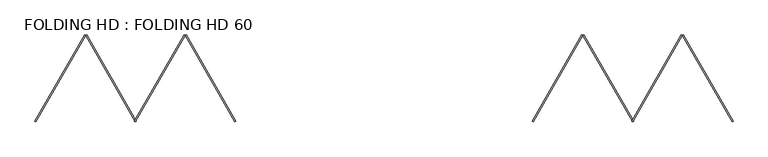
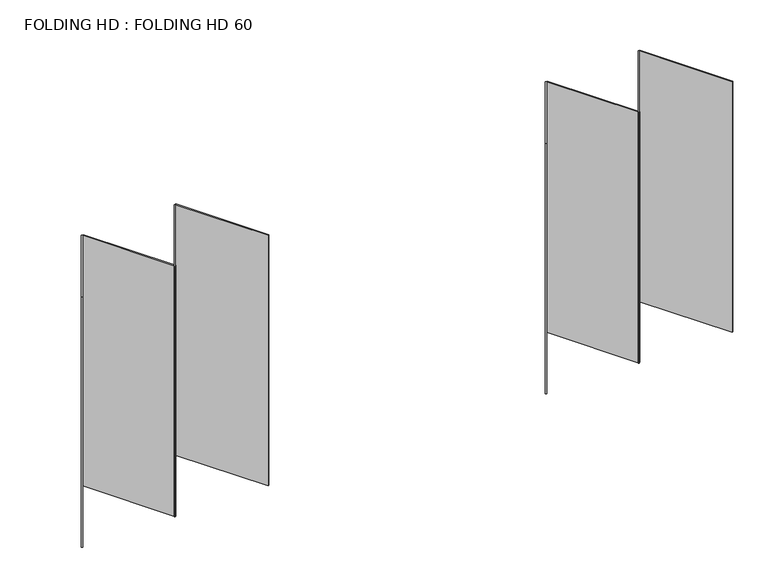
"""IFC4 building model written with IfcOpenShell, lengths in millimetres: plate geometry, FOLDING HD : FOLDING HD 60."""

from ifc_helpers import new_model, si_unit, origin, origin_with_axes, place, context, project, spatial, polyline, outline, extrude, source, transform, mapped, element, save


def folding_hd_folding_hd_60_17fa483a(model_context):
    return source(origin(), model_context, "Body", "SweptSolid", [
        extrude(outline(polyline([(2700.0, 779.4228635), (2250.0000001, 0.0), (2241.339746, 5.0), (2691.339746, 784.4228635), (2700.0, 779.4228635)])), origin_with_axes(), (0.0, 0.0, 1.0), 2570.0),
        extrude(outline(polyline([(2700.0, 779.4228634), (2708.660254, 784.4228634), (3158.660254, 5.0), (3150.0, 0.0), (2700.0, 779.4228634)])), origin_with_axes(), (0.0, 0.0, 1.0), 2570.0),
        extrude(outline(polyline([(1800.0, 779.4228634), (1808.660254, 784.4228634), (2258.660254, 5.0), (2250.0, 0.0), (1800.0, 779.4228634)])), origin_with_axes(), (0.0, 0.0, 1.0), 2570.0),
        extrude(outline(polyline([(1800.0, 779.4228634), (1350.0, 0.0), (1341.339746, 5.0), (1791.339746, 784.4228634), (1800.0, 779.4228634)])), origin_with_axes(), (0.0, 0.0, 1.0), 2570.0),
        extrude(outline(polyline([(-1800.0, 779.4228634), (-2250.0, 0.0), (-2258.660254, 5.0), (-1808.660254, 784.4228634), (-1800.0, 779.4228634)])), origin_with_axes(), (0.0, 0.0, 1.0), 2570.0),
        extrude(outline(polyline([(-1800.0, 779.4228634), (-1791.339746, 784.4228634), (-1341.339746, 5.0), (-1350.0, 0.0), (-1800.0, 779.4228634)])), origin_with_axes(), (0.0, 0.0, 1.0), 2570.0),
        extrude(outline(polyline([(-2700.0, 779.4228634), (-2691.339746, 784.4228634), (-2241.339746, 5.0), (-2250.0, 0.0), (-2700.0, 779.4228634)])), origin_with_axes(), (0.0, 0.0, 1.0), 2570.0),
        extrude(outline(polyline([(-2700.0, 779.4228634), (-3150.0, 0.0), (-3158.660254, 5.0), (-2708.660254, 784.4228634), (-2700.0, 779.4228634)])), origin_with_axes(), (0.0, 0.0, 1.0), 2570.0),
    ])


if __name__ == "__main__":
    model = new_model("IFC4")
    model_context = context("Model", 3, world=origin())
    ifc_project = project(units=[si_unit("LENGTHUNIT", "METRE", prefix="MILLI")], contexts=[model_context])
    site = spatial("IfcSite", under=ifc_project)
    building = spatial("IfcBuilding", under=site)
    placement = place(None, origin())
    folding_hd_folding_hd_60_shape = folding_hd_folding_hd_60_17fa483a(model_context)
    element("IfcPlate", 1, ObjectType="FOLDING HD : FOLDING HD 60", at=placement, inside=building, context=model_context, shape_type="MappedRepresentation", body=[
        mapped(folding_hd_folding_hd_60_shape, transform((0.0, 0.0, 0.0), x_axis=(1.0, 0.0, 0.0), y_axis=(0.0, 1.0, 0.0), z_axis=(0.0, 0.0, 1.0))),
    ])
    save(model, "model.ifc")
